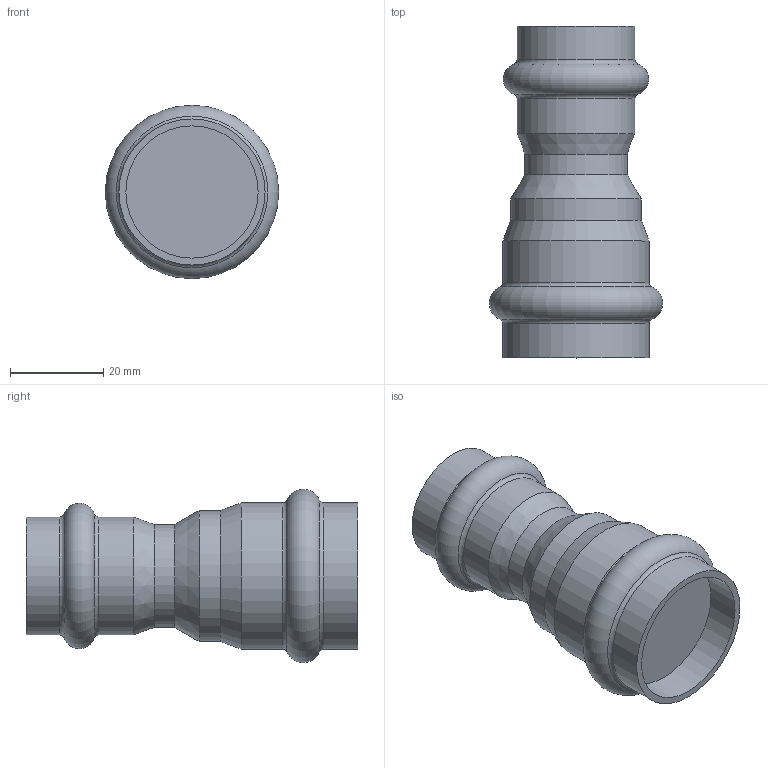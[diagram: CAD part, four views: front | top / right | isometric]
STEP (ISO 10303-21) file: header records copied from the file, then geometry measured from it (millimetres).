
FILE_DESCRIPTION(('STEP AP203'), '1');
FILE_NAME('VTi.903.I.002822', '', ('UNSPECIFIED'), ('UNSPECIFIED'), 'C3D Converter', 'C3D Toolkit', '');
FILE_SCHEMA(('CONFIG_CONTROL_DESIGN'));
Length unit declared in the file: millimetre
Bounding box: 37.08 x 71 x 37.08 mm (x, y, z)
Volume: 38356.1 mm3; surface area: 9333.7 mm2
Topology: 1 solids, 1 shells, 21 faces, 37 edges, 20 vertices
Faces by surface type: cylinder 8, torus 6, plane 4, cone 3
Full cylindrical faces by diameter (mm): 22 x1, 22.3 x1, 25.2 x2, 28 x1, 28.3 x1, 31.26 x2
Entity records: 454 total; most frequent: DIRECTION 84, CARTESIAN_POINT 62, AXIS2_PLACEMENT_3D 42, EDGE_LOOP 40, ORIENTED_EDGE 40, FACE_OUTER_BOUND 34, ADVANCED_FACE 21, EDGE_CURVE 20
